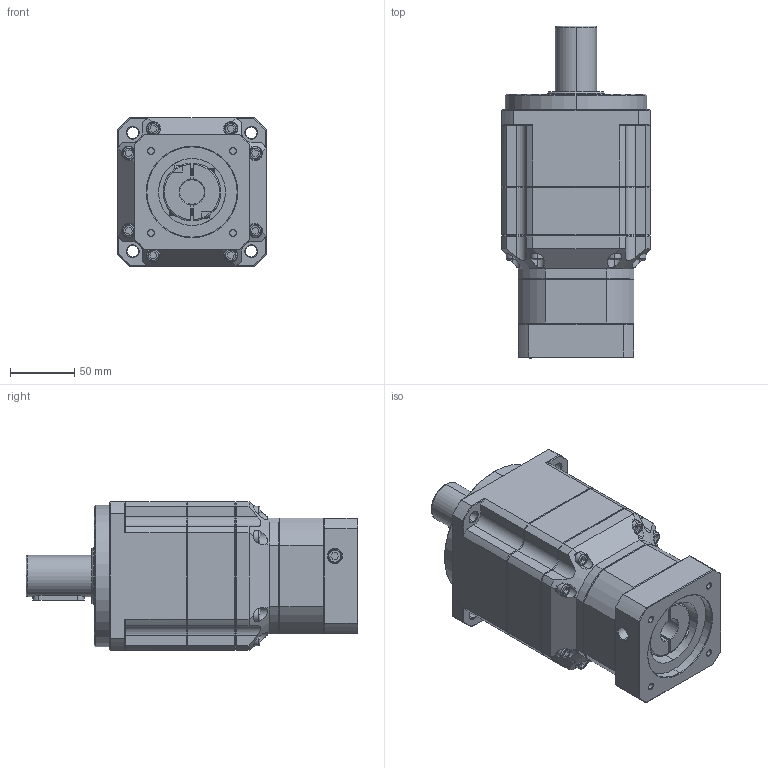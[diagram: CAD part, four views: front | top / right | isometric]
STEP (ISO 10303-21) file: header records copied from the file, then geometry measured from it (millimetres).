
FILE_DESCRIPTION (( 'STEP AP214' ), '1' );
FILE_NAME ('ZPB115-D32-L3-P1-19-70-90-M6.step', '2024-06-12T09:56:41', ( 'Windows 蚚誧' ), ( 'Organization' ), 'SwSTEP 2.0', 'SolidWorks 2016', '' );
FILE_SCHEMA (( 'AUTOMOTIVE_DESIGN' ));
Length unit declared in the file: millimetre
Products named in the file (1): ZPB115-D32-L3-P1-19-70-90-M6
Bounding box: 115 x 257.5 x 115 mm (x, y, z)
Surface area: 138121.1 mm2 (no closed solid volume)
Topology: 0 solids, 3 shells, 1828 faces, 4875 edges, 3151 vertices
Faces by surface type: plane 1055, bspline 399, cylinder 202, cone 172
Full cylindrical faces by diameter (mm): 10.2 x1
Entity records: 99974 total; most frequent: CARTESIAN_POINT 50382, ORIENTED_EDGE 9728, DIRECTION 7242, EDGE_CURVE 4873, VECTOR 3246, LINE 3246, VERTEX_POINT 3150, AXIS2_PLACEMENT_3D 1998
